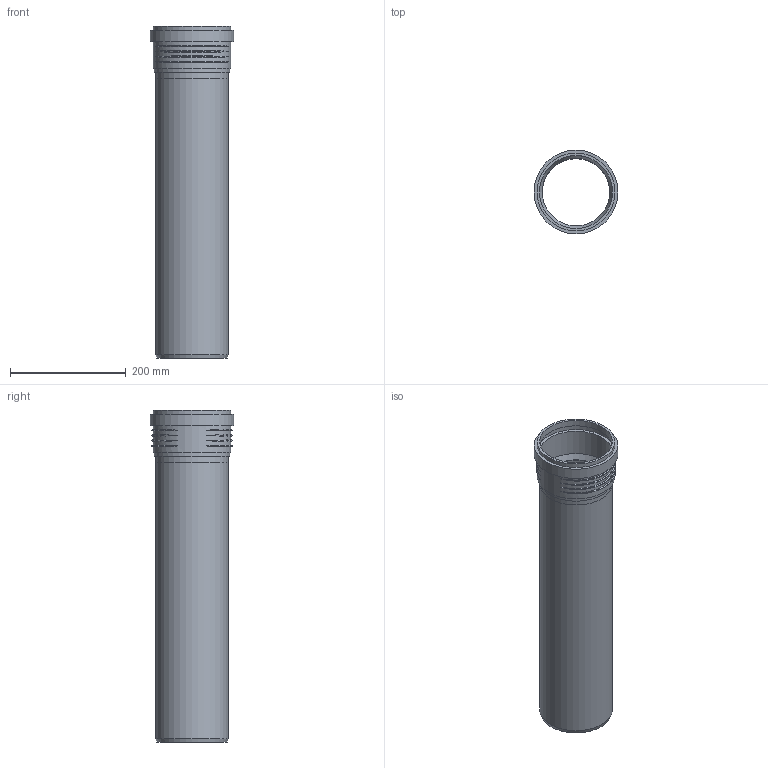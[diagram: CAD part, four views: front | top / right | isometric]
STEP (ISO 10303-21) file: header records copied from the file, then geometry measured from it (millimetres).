
FILE_DESCRIPTION(/* description */ (''),/* implementation_level */ '2;1');
FILE_NAME(/* name */ 'Z:\Geberit\Export\NewStep\390602.stp',/* time_stamp */ '2014-04-02T08:15:25+02:00',/* author */ ('ML'),/* organization */ (''),/* preprocessor_version */ 'ST-DEVELOPER v15.2',/* originating_system */ 'Autodesk Inventor 2014',/* authorisation */ '');
FILE_SCHEMA (('AUTOMOTIVE_DESIGN { 1 0 10303 214 3 1 1 }'));
Length unit declared in the file: millimetre
Products named in the file (3): 861668; 861586ohne; 390602
Bounding box: 144.95 x 144.95 x 573.9 mm (x, y, z)
Volume: 966503.3 mm3; surface area: 468870.3 mm2
Topology: 2 solids, 2 shells, 47 faces, 104 edges, 71 vertices
Faces by surface type: torus 24, cylinder 11, plane 10, cone 2
Full cylindrical faces by diameter (mm): 116.8 x2, 125.2 x2, 126.2 x2, 130.4 x1, 134.6 x2, 136.55 x1, 144.95 x1
Entity records: 2003 total; most frequent: CARTESIAN_POINT 962, DIRECTION 182, ORIENTED_EDGE 174, AXIS2_PLACEMENT_3D 91, EDGE_CURVE 87, EDGE_LOOP 78, VERTEX_POINT 71, STYLED_ITEM 49
